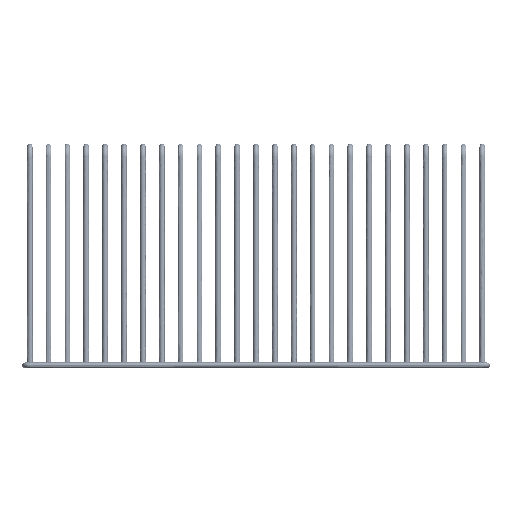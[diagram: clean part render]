
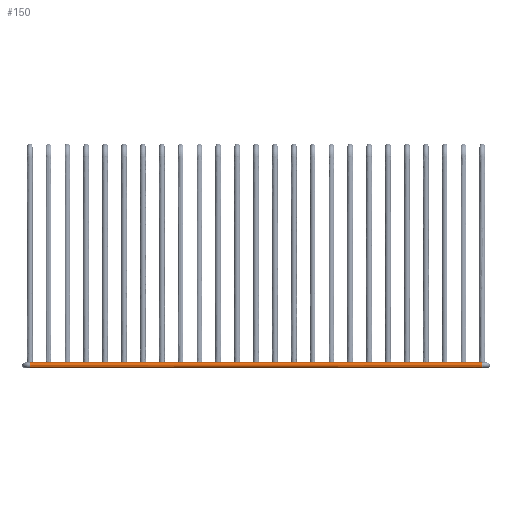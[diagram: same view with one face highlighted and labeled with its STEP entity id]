
A CAD part, left-side view. The second image highlights one B-rep face of the part: STEP entity #150.
In plain terms, the highlighted free-form (B-spline) face has degree [3, 2] with [4, 5] control points.
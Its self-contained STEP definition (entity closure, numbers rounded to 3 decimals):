
#150=ADVANCED_FACE('',(#624),#5938,.T.);
#624=FACE_OUTER_BOUND('',#1098,.T.);
#1098=EDGE_LOOP('',(#1596,#1597,#1598,#1599));
#1596=ORIENTED_EDGE('',*,*,#3478,.T.);
#1597=ORIENTED_EDGE('',*,*,#3460,.T.);
#1598=ORIENTED_EDGE('',*,*,#3461,.T.);
#1599=ORIENTED_EDGE('',*,*,#3476,.F.);
#3460=EDGE_CURVE('',#5406,#5407,#4458,.T.);
#3461=EDGE_CURVE('',#5407,#5415,#4459,.T.);
#3476=EDGE_CURVE('',#5414,#5415,#4474,.T.);
#3478=EDGE_CURVE('',#5414,#5406,#4476,.T.);
#4458=(
BOUNDED_CURVE()
B_SPLINE_CURVE(3,(#7009,#7010,#7011,#7012),.UNSPECIFIED.,.F.,.F.)
B_SPLINE_CURVE_WITH_KNOTS((4,4),(0.,474.),.UNSPECIFIED.)
CURVE()
GEOMETRIC_REPRESENTATION_ITEM()
RATIONAL_B_SPLINE_CURVE((1.,1.,1.,1.))
REPRESENTATION_ITEM('')
);
#4459=(
BOUNDED_CURVE()
B_SPLINE_CURVE(2,(#7013,#7014,#7015,#7016,#7017),.UNSPECIFIED.,.F.,.F.)
B_SPLINE_CURVE_WITH_KNOTS((3,2,3),(0.,4.712,9.425),
 .UNSPECIFIED.)
CURVE()
GEOMETRIC_REPRESENTATION_ITEM()
RATIONAL_B_SPLINE_CURVE((1.,0.707,1.,0.707,1.))
REPRESENTATION_ITEM('')
);
#4474=(
BOUNDED_CURVE()
B_SPLINE_CURVE(3,(#7129,#7130,#7131,#7132),.UNSPECIFIED.,.F.,.F.)
B_SPLINE_CURVE_WITH_KNOTS((4,4),(0.,474.),.UNSPECIFIED.)
CURVE()
GEOMETRIC_REPRESENTATION_ITEM()
RATIONAL_B_SPLINE_CURVE((1.,1.,1.,1.))
REPRESENTATION_ITEM('')
);
#4476=(
BOUNDED_CURVE()
B_SPLINE_CURVE(2,(#7138,#7139,#7140,#7141,#7142),.UNSPECIFIED.,.F.,.F.)
B_SPLINE_CURVE_WITH_KNOTS((3,2,3),(-9.425,-4.712,
0.),.UNSPECIFIED.)
CURVE()
GEOMETRIC_REPRESENTATION_ITEM()
RATIONAL_B_SPLINE_CURVE((1.,0.707,1.,0.707,1.))
REPRESENTATION_ITEM('')
);
#5406=VERTEX_POINT('',#6993);
#5407=VERTEX_POINT('',#6994);
#5414=VERTEX_POINT('',#7001);
#5415=VERTEX_POINT('',#7002);
#5938=(
BOUNDED_SURFACE()
B_SPLINE_SURFACE(3,2,((#6713,#6714,#6715,#6716,#6717),(#6718,#6719,#6720,
#6721,#6722),(#6723,#6724,#6725,#6726,#6727),(#6728,#6729,#6730,#6731,#6732)),
 .UNSPECIFIED.,.F.,.F.,.F.)
B_SPLINE_SURFACE_WITH_KNOTS((4,4),(3,2,3),(0.,474.),(0.,4.712,
9.425),.UNSPECIFIED.)
GEOMETRIC_REPRESENTATION_ITEM()
RATIONAL_B_SPLINE_SURFACE(((1.,0.707,1.,0.707,1.),
(1.,0.707,1.,0.707,1.),(1.,0.707,1.,
0.707,1.),(1.,0.707,1.,0.707,1.)))
REPRESENTATION_ITEM('')
SURFACE()
);
#6713=CARTESIAN_POINT('',(-347.,272.482,-2.));
#6714=CARTESIAN_POINT('',(-350.,272.482,-2.));
#6715=CARTESIAN_POINT('',(-350.,272.482,1.));
#6716=CARTESIAN_POINT('',(-350.,272.482,4.));
#6717=CARTESIAN_POINT('',(-347.,272.482,4.));
#6718=CARTESIAN_POINT('',(-347.,114.482,-2.));
#6719=CARTESIAN_POINT('',(-350.,114.482,-2.));
#6720=CARTESIAN_POINT('',(-350.,114.482,1.));
#6721=CARTESIAN_POINT('',(-350.,114.482,4.));
#6722=CARTESIAN_POINT('',(-347.,114.482,4.));
#6723=CARTESIAN_POINT('',(-347.,-43.52,-2.));
#6724=CARTESIAN_POINT('',(-350.,-43.52,-2.));
#6725=CARTESIAN_POINT('',(-350.,-43.52,1.));
#6726=CARTESIAN_POINT('',(-350.,-43.52,4.));
#6727=CARTESIAN_POINT('',(-347.,-43.52,4.));
#6728=CARTESIAN_POINT('',(-347.,-201.518,-2.));
#6729=CARTESIAN_POINT('',(-350.,-201.518,-2.));
#6730=CARTESIAN_POINT('',(-350.,-201.518,1.));
#6731=CARTESIAN_POINT('',(-350.,-201.518,4.));
#6732=CARTESIAN_POINT('',(-347.,-201.518,4.));
#6993=CARTESIAN_POINT('',(-347.,272.482,-2.));
#6994=CARTESIAN_POINT('',(-347.,-201.518,-2.));
#7001=CARTESIAN_POINT('',(-347.,272.482,4.));
#7002=CARTESIAN_POINT('',(-347.,-201.518,4.));
#7009=CARTESIAN_POINT('',(-347.,272.482,-2.));
#7010=CARTESIAN_POINT('',(-347.,114.482,-2.));
#7011=CARTESIAN_POINT('',(-347.,-43.52,-2.));
#7012=CARTESIAN_POINT('',(-347.,-201.518,-2.));
#7013=CARTESIAN_POINT('',(-347.,-201.518,-2.));
#7014=CARTESIAN_POINT('',(-350.,-201.518,-2.));
#7015=CARTESIAN_POINT('',(-350.,-201.518,1.));
#7016=CARTESIAN_POINT('',(-350.,-201.518,4.));
#7017=CARTESIAN_POINT('',(-347.,-201.518,4.));
#7129=CARTESIAN_POINT('',(-347.,272.482,4.));
#7130=CARTESIAN_POINT('',(-347.,114.482,4.));
#7131=CARTESIAN_POINT('',(-347.,-43.52,4.));
#7132=CARTESIAN_POINT('',(-347.,-201.518,4.));
#7138=CARTESIAN_POINT('',(-347.,272.482,4.));
#7139=CARTESIAN_POINT('',(-350.,272.482,4.));
#7140=CARTESIAN_POINT('',(-350.,272.482,1.));
#7141=CARTESIAN_POINT('',(-350.,272.482,-2.));
#7142=CARTESIAN_POINT('',(-347.,272.482,-2.));
